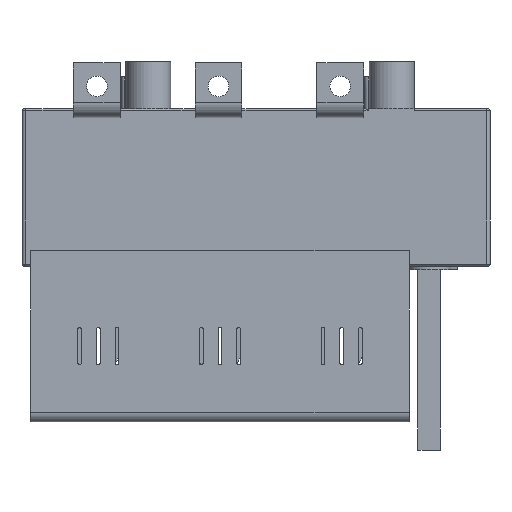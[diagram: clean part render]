
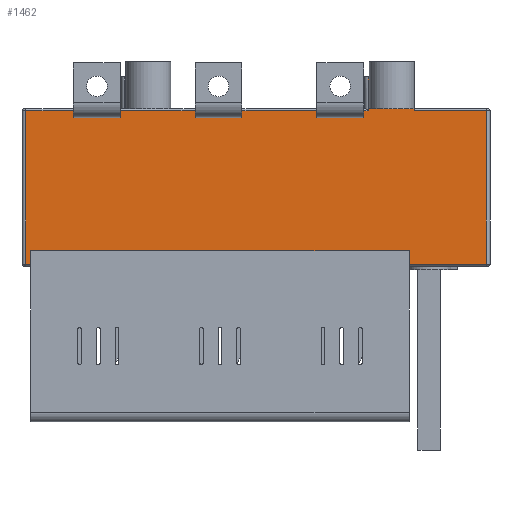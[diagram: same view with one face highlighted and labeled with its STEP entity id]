
A CAD part, front view. The second image highlights one B-rep face of the part: STEP entity #1462.
In plain terms, the highlighted planar face has unit normal (0, -1, 0).
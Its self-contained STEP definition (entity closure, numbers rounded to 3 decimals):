
#1462=ADVANCED_FACE('',(#3009),#2196,.T.);
#2196=PLANE('',#20343);
#3009=FACE_OUTER_BOUND('',#4072,.T.);
#4072=EDGE_LOOP('',(#12470,#12471,#12472,#12473,#12474,#12475,#12476,#12477,
#12478,#12479,#12480,#12481,#12482,#12483,#12484,#12485,#12486,#12487,#12488,
#12489,#12490,#12491));
#5686=LINE('',#29403,#7682);
#5697=LINE('',#29433,#7693);
#5699=LINE('',#29439,#7695);
#5718=LINE('',#29503,#7714);
#5729=LINE('',#29533,#7725);
#5731=LINE('',#29537,#7727);
#5750=LINE('',#29603,#7746);
#5761=LINE('',#29633,#7757);
#5763=LINE('',#29637,#7759);
#5878=LINE('',#30078,#7874);
#5885=LINE('',#30106,#7881);
#5891=LINE('',#30175,#7887);
#5896=LINE('',#30192,#7892);
#5897=LINE('',#30194,#7893);
#5919=LINE('',#30318,#7915);
#5926=LINE('',#30367,#7922);
#5958=LINE('',#30467,#7954);
#5964=LINE('',#30479,#7960);
#5974=LINE('',#30499,#7970);
#5987=LINE('',#30524,#7983);
#5990=LINE('',#30529,#7986);
#5991=LINE('',#30530,#7987);
#7682=VECTOR('',#23834,1.);
#7693=VECTOR('',#23863,1.);
#7695=VECTOR('',#23869,1.);
#7714=VECTOR('',#23930,1.);
#7725=VECTOR('',#23959,1.);
#7727=VECTOR('',#23963,1.);
#7746=VECTOR('',#24026,1.);
#7757=VECTOR('',#24055,1.);
#7759=VECTOR('',#24059,1.);
#7874=VECTOR('',#24498,1.);
#7881=VECTOR('',#24531,1.);
#7887=VECTOR('',#24571,1.);
#7892=VECTOR('',#24594,1.);
#7893=VECTOR('',#24597,1.);
#7915=VECTOR('',#24735,1.);
#7922=VECTOR('',#24756,1.);
#7954=VECTOR('',#24856,1.);
#7960=VECTOR('',#24868,1.);
#7970=VECTOR('',#24890,1.);
#7983=VECTOR('',#24927,1.);
#7986=VECTOR('',#24934,1.);
#7987=VECTOR('',#24935,1.);
#12470=ORIENTED_EDGE('',*,*,#17736,.T.);
#12471=ORIENTED_EDGE('',*,*,#17245,.T.);
#12472=ORIENTED_EDGE('',*,*,#17227,.F.);
#12473=ORIENTED_EDGE('',*,*,#17242,.T.);
#12474=ORIENTED_EDGE('',*,*,#17737,.T.);
#12475=ORIENTED_EDGE('',*,*,#17292,.F.);
#12476=ORIENTED_EDGE('',*,*,#17275,.F.);
#12477=ORIENTED_EDGE('',*,*,#17290,.F.);
#12478=ORIENTED_EDGE('',*,*,#17733,.T.);
#12479=ORIENTED_EDGE('',*,*,#17340,.F.);
#12480=ORIENTED_EDGE('',*,*,#17323,.F.);
#12481=ORIENTED_EDGE('',*,*,#17338,.F.);
#12482=ORIENTED_EDGE('',*,*,#17556,.T.);
#12483=ORIENTED_EDGE('',*,*,#17585,.F.);
#12484=ORIENTED_EDGE('',*,*,#17575,.T.);
#12485=ORIENTED_EDGE('',*,*,#17584,.T.);
#12486=ORIENTED_EDGE('',*,*,#17541,.T.);
#12487=ORIENTED_EDGE('',*,*,#17709,.T.);
#12488=ORIENTED_EDGE('',*,*,#17702,.F.);
#12489=ORIENTED_EDGE('',*,*,#17638,.F.);
#12490=ORIENTED_EDGE('',*,*,#17720,.T.);
#12491=ORIENTED_EDGE('',*,*,#17651,.T.);
#14872=VERTEX_POINT('',#29401);
#14874=VERTEX_POINT('',#29404);
#14883=VERTEX_POINT('',#29432);
#14885=VERTEX_POINT('',#29437);
#14909=VERTEX_POINT('',#29502);
#14910=VERTEX_POINT('',#29504);
#14919=VERTEX_POINT('',#29532);
#14921=VERTEX_POINT('',#29538);
#14945=VERTEX_POINT('',#29602);
#14946=VERTEX_POINT('',#29604);
#14955=VERTEX_POINT('',#29632);
#14957=VERTEX_POINT('',#29638);
#15102=VERTEX_POINT('',#30056);
#15103=VERTEX_POINT('',#30076);
#15111=VERTEX_POINT('',#30100);
#15121=VERTEX_POINT('',#30130);
#15125=VERTEX_POINT('',#30172);
#15173=VERTEX_POINT('',#30317);
#15174=VERTEX_POINT('',#30319);
#15181=VERTEX_POINT('',#30349);
#15184=VERTEX_POINT('',#30366);
#15219=VERTEX_POINT('',#30468);
#17227=EDGE_CURVE('',#14872,#14874,#5686,.T.);
#17242=EDGE_CURVE('',#14872,#14883,#5697,.T.);
#17245=EDGE_CURVE('',#14885,#14874,#5699,.T.);
#17275=EDGE_CURVE('',#14909,#14910,#5718,.T.);
#17290=EDGE_CURVE('',#14919,#14909,#5729,.T.);
#17292=EDGE_CURVE('',#14910,#14921,#5731,.T.);
#17323=EDGE_CURVE('',#14945,#14946,#5750,.T.);
#17338=EDGE_CURVE('',#14955,#14945,#5761,.T.);
#17340=EDGE_CURVE('',#14946,#14957,#5763,.T.);
#17541=EDGE_CURVE('',#15102,#15103,#5878,.T.);
#17556=EDGE_CURVE('',#14955,#15111,#5885,.T.);
#17575=EDGE_CURVE('',#15125,#15121,#5891,.T.);
#17584=EDGE_CURVE('',#15121,#15102,#5896,.T.);
#17585=EDGE_CURVE('',#15125,#15111,#5897,.T.);
#17638=EDGE_CURVE('',#15173,#15174,#5919,.T.);
#17651=EDGE_CURVE('',#15181,#15184,#5926,.T.);
#17702=EDGE_CURVE('',#15174,#15219,#5958,.T.);
#17709=EDGE_CURVE('',#15103,#15219,#5964,.T.);
#17720=EDGE_CURVE('',#15173,#15181,#5974,.T.);
#17733=EDGE_CURVE('',#14919,#14957,#5987,.T.);
#17736=EDGE_CURVE('',#15184,#14885,#5990,.T.);
#17737=EDGE_CURVE('',#14883,#14921,#5991,.T.);
#20343=AXIS2_PLACEMENT_3D('',#30531,#24936,#24937);
#23834=DIRECTION('',(1.,0.,0.));
#23863=DIRECTION('',(0.,0.,1.));
#23869=DIRECTION('',(0.,0.,-1.));
#23930=DIRECTION('',(1.,0.,0.));
#23959=DIRECTION('',(0.,0.,-1.));
#23963=DIRECTION('',(0.,0.,1.));
#24026=DIRECTION('',(1.,0.,0.));
#24055=DIRECTION('',(0.,0.,-1.));
#24059=DIRECTION('',(0.,0.,1.));
#24498=DIRECTION('',(-1.,0.,0.));
#24531=DIRECTION('',(-1.,0.,0.));
#24571=DIRECTION('',(1.,0.,0.));
#24594=DIRECTION('',(0.,0.,1.));
#24597=DIRECTION('',(0.,0.,1.));
#24735=DIRECTION('',(0.,0.,-1.));
#24756=DIRECTION('',(0.,0.,-1.));
#24856=DIRECTION('',(1.,0.,0.));
#24868=DIRECTION('',(0.,0.,1.));
#24890=DIRECTION('',(-1.,0.,0.));
#24927=DIRECTION('',(-1.,0.,0.));
#24934=DIRECTION('',(-1.,0.,0.));
#24935=DIRECTION('',(-1.,0.,0.));
#24936=DIRECTION('',(0.,-1.,0.));
#24937=DIRECTION('',(1.,0.,0.));
#29401=CARTESIAN_POINT('',(-40.,-52.5,-4.118));
#29403=CARTESIAN_POINT('',(-40.,-52.5,-4.118));
#29404=CARTESIAN_POINT('',(-15.,-52.5,-4.118));
#29432=CARTESIAN_POINT('',(-40.,-52.5,-1.));
#29433=CARTESIAN_POINT('',(-40.,-52.5,4.));
#29437=CARTESIAN_POINT('',(-15.,-52.5,-1.));
#29439=CARTESIAN_POINT('',(-15.,-52.5,4.));
#29502=CARTESIAN_POINT('',(-105.,-52.5,-4.118));
#29503=CARTESIAN_POINT('',(-105.,-52.5,-4.118));
#29504=CARTESIAN_POINT('',(-80.,-52.5,-4.118));
#29532=CARTESIAN_POINT('',(-105.,-52.5,-1.));
#29533=CARTESIAN_POINT('',(-105.,-52.5,4.));
#29537=CARTESIAN_POINT('',(-80.,-52.5,4.));
#29538=CARTESIAN_POINT('',(-80.,-52.5,-1.));
#29602=CARTESIAN_POINT('',(-170.,-52.5,-4.118));
#29603=CARTESIAN_POINT('',(-170.,-52.5,-4.118));
#29604=CARTESIAN_POINT('',(-145.,-52.5,-4.118));
#29632=CARTESIAN_POINT('',(-170.,-52.5,-1.));
#29633=CARTESIAN_POINT('',(-170.,-52.5,4.));
#29637=CARTESIAN_POINT('',(-145.,-52.5,4.));
#29638=CARTESIAN_POINT('',(-145.,-52.5,-1.));
#30056=CARTESIAN_POINT('',(50.5,-52.5,-1.));
#30076=CARTESIAN_POINT('',(12.,-52.5,-1.));
#30078=CARTESIAN_POINT('',(12.,-52.5,-1.));
#30100=CARTESIAN_POINT('',(-195.5,-52.5,-1.));
#30106=CARTESIAN_POINT('',(-195.5,-52.5,-1.));
#30130=CARTESIAN_POINT('',(50.5,-52.5,-83.));
#30172=CARTESIAN_POINT('',(-195.5,-52.5,-83.));
#30175=CARTESIAN_POINT('',(-12.,-52.5,-83.));
#30192=CARTESIAN_POINT('',(50.5,-52.5,-84.));
#30194=CARTESIAN_POINT('',(-195.5,-52.5,-84.));
#30317=CARTESIAN_POINT('',(-12.,-52.5,17.));
#30318=CARTESIAN_POINT('',(-12.,-52.5,25.));
#30319=CARTESIAN_POINT('',(-12.,-52.5,0.));
#30349=CARTESIAN_POINT('',(-12.5,-52.5,17.));
#30366=CARTESIAN_POINT('',(-12.5,-52.5,-1.));
#30367=CARTESIAN_POINT('',(-12.5,-52.5,4.));
#30467=CARTESIAN_POINT('',(50.5,-52.5,0.));
#30468=CARTESIAN_POINT('',(12.,-52.5,0.));
#30479=CARTESIAN_POINT('',(12.,-52.5,4.));
#30499=CARTESIAN_POINT('',(7.5,-52.5,17.));
#30524=CARTESIAN_POINT('',(-195.5,-52.5,-1.));
#30529=CARTESIAN_POINT('',(-195.5,-52.5,-1.));
#30530=CARTESIAN_POINT('',(-195.5,-52.5,-1.));
#30531=CARTESIAN_POINT('',(-12.,-52.5,4.));
